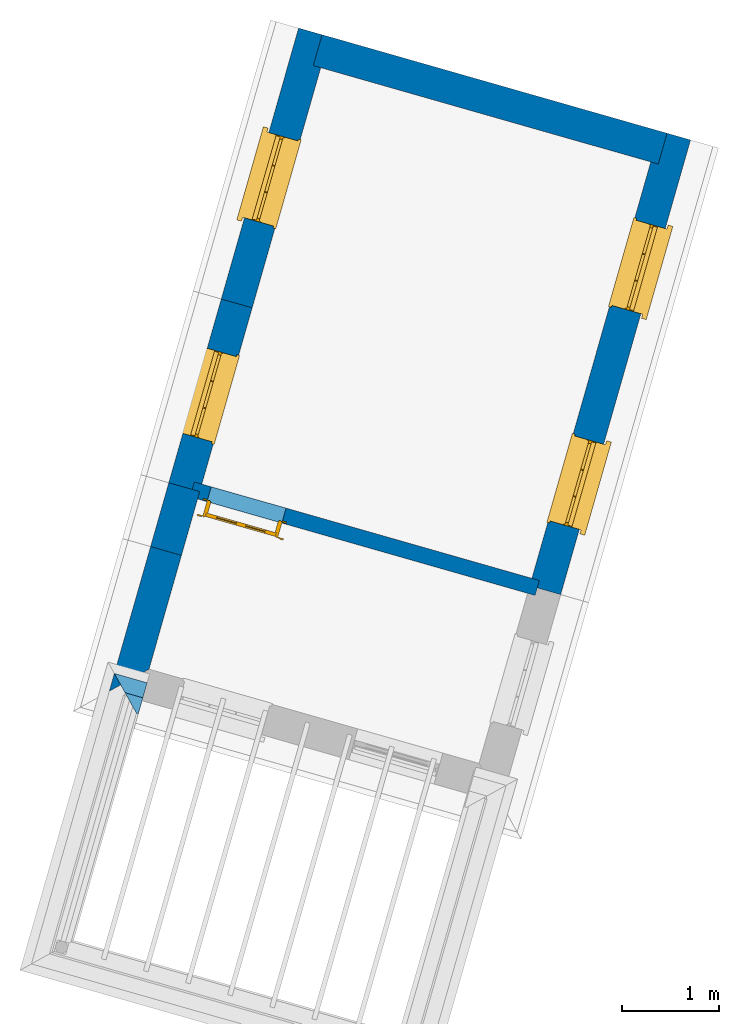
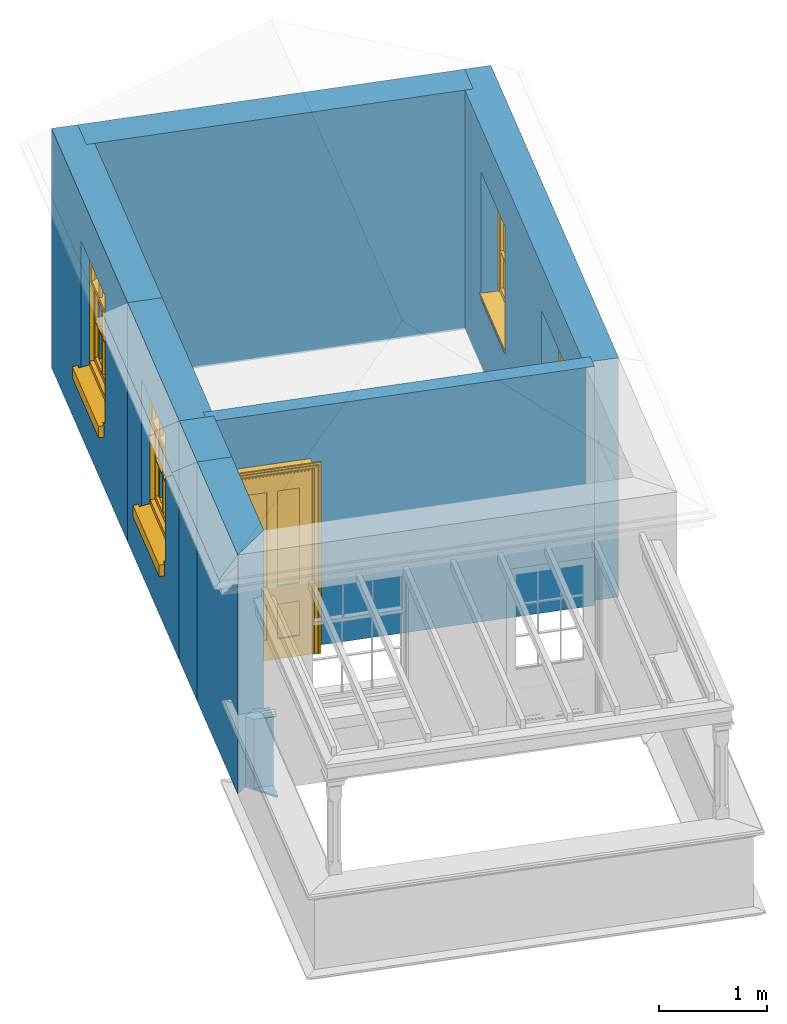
# One storey, part 3 of 4: 8 walls, 4 windows, 1 door, 5 openings.
"""IFC4 building model written with IfcOpenShell, lengths in metres."""

from ifc_helpers import new_model, si_unit, frame, origin, origin_with_axes, place, context, subcontext, project, spatial, polyline, outline, extrude, clip, halfspace, faceted_brep, source, transform, mapped, material, layer, layer_set, layer_usage, material_profile, profile_set, profile_usage, type_object, type_shapes, element, fill, save


model = new_model("IFC4")

# Units and contexts
model_context = context("Model", 3, world=origin_with_axes())
body_context = subcontext(model_context, "Body", "Model", "MODEL_VIEW")
ifc_project = project(units=[si_unit("PLANEANGLEUNIT", "RADIAN"), si_unit("MASSUNIT", "GRAM", prefix="KILO"), si_unit("FORCEUNIT", "NEWTON", prefix="KILO"), si_unit("LENGTHUNIT", "METRE"), si_unit("AREAUNIT", "SQUARE_METRE"), si_unit("VOLUMEUNIT", "CUBIC_METRE")], contexts=[model_context, model_context])

# Sites, building, storey
site_1_placement = place(None, origin_with_axes())
site_1 = spatial("IfcSite", under=ifc_project, at=site_1_placement, Name="Tamar")
site_2_placement = place(site_1_placement, origin_with_axes())
site_2 = spatial("IfcSite", under=site_1, at=site_2_placement, Name="Site plot-20", CompositionType="ELEMENT")
building_placement = place(None, origin_with_axes())
building = spatial("IfcBuilding", under=site_2, at=building_placement, Name="Building plot-20", CompositionType="ELEMENT")
storey_placement = place(None, frame((0.0, 0.0, 31.85), z_axis=(0.0, 0.0, 1.0), x_axis=(1.0, 0.0, 0.0)))
storey = spatial("IfcBuildingStorey", under=building, at=storey_placement, Name="plot-20 2", CompositionType="ELEMENT", Elevation=31.85)

# Wall, opening, window
ifc_material_1 = material(Name="Masonry")
ifc_layer_1 = layer(ifc_material_1, 0.33, ventilated=False)
ifc_layer_set_1 = layer_set([ifc_layer_1], Name="exterior_0.08_0.25")
ifc_layer_usage_1 = layer_usage(ifc_layer_set_1, "AXIS2", "POSITIVE", -0.25)
wall_type_1 = type_object("IfcWallType", Name="exterior_0.08_0.25", PredefinedType="SOLIDWALL", material=ifc_layer_set_1)
wall_1_placement = place(storey_placement, frame((278.852686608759, 293.884328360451, 0.0), z_axis=(0.0, 0.0, 1.0), x_axis=(-0.274568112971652, -0.961567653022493, 0.0)))
wall_1 = element("IfcWall", 1, at=wall_1_placement, inside=storey, type_object=wall_type_1, material=ifc_layer_usage_1, Name="exterior", context=body_context, shape_type="SweptSolid", body=[
    extrude(outline(polyline([(-0.249999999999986, 0.0799999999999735), (-0.249999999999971, -0.250000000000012), (2.64537764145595, -0.249999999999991), (2.64537764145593, 0.0799999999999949), (-0.249999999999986, 0.0799999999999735)])), origin_with_axes(), (0.0, 0.0, 1.0), 2.7),
])
opening_1_placement = place(wall_1_placement, frame((0.867688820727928, 0.0, 0.75)))
opening_1 = element("IfcOpeningElement", 2, at=opening_1_placement, cuts=wall_1, Name="My Opening", ObjectType="Opening", context=body_context, shape_type="SweptSolid", body=[
    extrude(outline(polyline([(0.0, -0.27000000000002), (0.910000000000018, -0.269999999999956), (0.91000000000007, 1.10000000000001), (5.10702591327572e-14, 1.09999999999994), (0.0, -0.27000000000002)])), origin_with_axes(), (0.0, 0.0, 1.0), 1.445),
])
window_type = type_object("IfcWindowType", Name="sash_shorter", PartitioningType="DOUBLE_PANEL_HORIZONTAL", PredefinedType="NOTDEFINED")
shared_shape_1 = source(origin(), body_context, "Body", "Brep", [
    faceted_brep([(0.876875, 0.145, 0.999097), (0.876875, 0.145, 1.411875), (0.9, 0.145, 1.435), (0.033125, 0.145, 1.411875), (0.033125, 0.145, 0.999097), (0.01, 0.145, 1.435), (0.033125, 0.115, 1.411875), (0.01, 0.115, 1.435), (0.033125, 0.115, 0.999097), (0.876875, 0.115, 1.411875), (0.876875, 0.115, 0.999097), (0.9, 0.115, 1.435), (0.033125, 0.145, 0.960972), (0.01, 0.145, 0.960972), (0.033125, 0.145, 0.548195), (0.876875, 0.145, 0.960972), (0.876875, 0.145, 0.548195), (0.9, 0.145, 0.960972), (0.876875, 0.145, 0.538195), (0.876875, 0.145, 0.125417), (0.9, 0.145, 0.077167), (0.033125, 0.145, 0.125417), (0.033125, 0.145, 0.538195), (0.01, 0.145, 0.077167), (0.9, 0.115, 0.960972), (0.01, 0.115, 0.960972), (-0.0425, 0.0, 0.01), (-0.0425, -0.05, 0.001667), (0.0, 0.0, 0.01), (0.9525, 0.0, 0.01), (0.91, 0.0, 0.01), (0.9525, -0.05, 0.001667), (-0.02, 0.33, 0.077167), (0.0, 0.33, 0.077167), (-0.02, 0.36, 0.077167), (0.0, 0.19, 0.077167), (0.01, 0.19, 0.077167), (0.91, 0.19, 0.077167), (0.91, 0.33, 0.077167), (0.9, 0.19, 0.077167), (0.93, 0.33, 0.077167), (0.93, 0.36, 0.077167), (0.01, 0.145, 0.999097), (0.01, 0.175, 0.999097), (0.9, 0.145, 0.999097), (0.9, 0.175, 0.999097), (0.876875, 0.175, 0.125417), (0.876875, 0.175, 0.538195), (0.9, 0.175, 0.077167), (0.876875, 0.175, 0.548195), (0.876875, 0.175, 0.960972), (0.033125, 0.175, 0.125417), (0.01, 0.175, 0.077167), (0.033125, 0.175, 0.538195), (0.033125, 0.175, 0.960972), (0.033125, 0.175, 0.548195), (-0.02, 0.33, 0.052167), (-0.02, 0.36, 0.052167), (0.93, 0.36, 0.052167), (0.93, 0.33, 0.052167), (0.91, 0.33, 0.052167), (0.0, 0.33, 0.052167), (0.91, 0.1, 0.026667), (0.0, 0.1, 0.026667), (-0.0425, -0.05, -0.123333), (0.9525, -0.05, -0.123333), (-0.0425, 0.0, -0.123333), (0.9525, 0.0, -0.123333), (0.01, 0.19, 1.435), (0.9, 0.19, 1.435), (0.0, 0.19, 1.445), (0.91, 0.19, 1.445), (0.01, 0.1, 0.077167), (0.9, 0.1, 0.077167), (0.592292, 0.145, 0.125417), (0.592292, 0.175, 0.125417), (0.317708, 0.175, 0.125417), (0.317708, 0.145, 0.125417), (0.592292, 0.145, 0.548195), (0.317708, 0.145, 0.548195), (0.317708, 0.145, 0.538195), (0.592292, 0.145, 0.538195), (0.592292, 0.175, 0.548195), (0.317708, 0.175, 0.548195), (0.602292, 0.175, 0.548195), (0.602292, 0.145, 0.548195), (0.317708, 0.175, 0.538195), (0.307708, 0.175, 0.125417), (0.307708, 0.175, 0.538195), (0.602292, 0.175, 0.538195), (0.602292, 0.175, 0.125417), (0.592292, 0.175, 0.538195), (0.307708, 0.175, 0.548195), (0.317708, 0.175, 0.960972), (0.307708, 0.175, 0.960972), (0.602292, 0.175, 0.960972), (0.592292, 0.175, 0.960972), (0.307708, 0.145, 0.538195), (0.307708, 0.145, 0.125417), (0.307708, 0.145, 0.548195), (0.307708, 0.145, 0.960972), (0.592292, 0.145, 0.960972), (0.317708, 0.145, 0.960972), (0.602292, 0.145, 0.960972), (0.602292, 0.145, 0.538195), (0.602292, 0.145, 0.125417), (0.317708, 0.115, 1.411875), (0.307708, 0.115, 1.411875), (0.307708, 0.115, 0.999097), (0.317708, 0.115, 0.999097), (0.602292, 0.115, 1.411875), (0.592292, 0.115, 1.411875), (0.592292, 0.115, 0.999097), (0.602292, 0.115, 0.999097), (0.317708, 0.145, 0.999097), (0.307708, 0.145, 0.999097), (0.307708, 0.145, 1.411875), (0.317708, 0.145, 1.411875), (0.602292, 0.145, 0.999097), (0.592292, 0.145, 0.999097), (0.592292, 0.145, 1.411875), (0.602292, 0.145, 1.411875), (0.91, 0.1, 1.445), (0.9, 0.1, 1.435), (0.01, 0.1, 1.435), (0.0, 0.1, 1.445), (0.91, 0.0, 0.0), (0.0, 0.0, 0.0), (0.91, 0.33, 0.0), (0.0, 0.33, 0.0)], [[[0, 1, 2]], [[3, 4, 5]], [[6, 7, 8]], [[9, 10, 11]], [[12, 13, 14]], [[15, 16, 17]], [[18, 19, 20]], [[21, 22, 23]], [[24, 15, 17]], [[13, 12, 25]], [[26, 27, 28]], [[29, 30, 31]], [[32, 33, 34]], [[35, 36, 33]], [[37, 38, 39]], [[40, 41, 38]], [[42, 4, 43]], [[44, 45, 0]], [[46, 47, 48]], [[49, 50, 45]], [[51, 52, 53]], [[54, 55, 43]], [[38, 33, 36, 39]], [[41, 34, 33, 38]], [[56, 32, 34, 57]], [[57, 34, 41, 58]], [[58, 41, 40, 59]], [[57, 58, 60, 61]], [[52, 48, 39, 36]], [[62, 63, 28, 30]], [[27, 31, 30, 28]], [[27, 64, 65, 31]], [[66, 67, 65, 64]], [[2, 5, 68, 69]], [[68, 70, 71, 69]], [[20, 23, 72, 73]], [[73, 72, 63, 62]], [[74, 75, 76, 77]], [[78, 79, 80, 81]], [[78, 82, 83, 79]], [[16, 49, 84, 85]], [[86, 76, 87, 88]], [[89, 90, 75, 91]], [[92, 88, 53, 55]], [[82, 91, 86, 83]], [[93, 83, 92, 94]], [[95, 84, 82, 96]], [[89, 84, 49, 47]], [[97, 88, 87, 98]], [[22, 53, 88, 97]], [[81, 91, 75, 74]], [[80, 86, 91, 81]], [[77, 76, 86, 80]], [[99, 92, 55, 14]], [[100, 94, 92, 99]], [[101, 96, 82, 78]], [[79, 83, 93, 102]], [[85, 84, 95, 103]], [[104, 89, 47, 18]], [[105, 90, 89, 104]], [[104, 18, 16, 85]], [[80, 97, 98, 77]], [[104, 81, 74, 105]], [[103, 101, 78, 85]], [[99, 14, 22, 97]], [[102, 100, 99, 79]], [[106, 107, 108, 109]], [[110, 111, 112, 113]], [[114, 115, 116, 117]], [[118, 119, 120, 121]], [[107, 116, 115, 108]], [[111, 120, 119, 112]], [[109, 114, 117, 106]], [[113, 118, 121, 110]], [[85, 78, 81, 104]], [[84, 89, 91, 82]], [[83, 86, 88, 92]], [[79, 99, 97, 80]], [[109, 112, 119, 114]], [[102, 93, 96, 101]], [[106, 117, 120, 111]], [[98, 87, 51, 21]], [[6, 3, 116, 107]], [[110, 121, 1, 9]], [[19, 46, 90, 105]], [[26, 66, 64, 27]], [[29, 31, 65, 67]], [[25, 24, 112, 109]], [[11, 7, 106, 111]], [[75, 48, 52, 76]], [[43, 45, 96, 93]], [[45, 43, 114, 119]], [[5, 2, 120, 117]], [[24, 25, 102, 101]], [[42, 5, 4]], [[2, 44, 0]], [[49, 45, 48, 47]], [[52, 43, 55, 53]], [[14, 13, 23, 22]], [[20, 17, 16, 18]], [[24, 11, 10]], [[25, 8, 7]], [[8, 4, 3, 6]], [[9, 1, 0, 10]], [[15, 50, 49, 16]], [[18, 47, 46, 19]], [[21, 51, 53, 22]], [[14, 55, 54, 12]], [[44, 2, 69, 45]], [[68, 5, 42, 43]], [[36, 35, 70, 68]], [[39, 69, 71, 37]], [[62, 122, 123, 73]], [[63, 72, 124, 125]], [[8, 108, 115, 4]], [[113, 10, 0, 118]], [[94, 100, 12, 54]], [[17, 20, 73, 24]], [[72, 23, 13, 25]], [[52, 36, 68, 43]], [[69, 39, 48, 45]], [[11, 24, 73, 123]], [[7, 124, 72, 25]], [[23, 77, 98]], [[98, 21, 23]], [[105, 74, 20]], [[20, 19, 105]], [[20, 74, 77, 23]], [[113, 112, 24]], [[24, 10, 113]], [[25, 109, 108]], [[108, 8, 25]], [[110, 9, 11]], [[11, 111, 110]], [[7, 6, 107]], [[107, 106, 7]], [[5, 117, 116]], [[116, 3, 5]], [[121, 120, 2]], [[2, 1, 121]], [[11, 123, 124, 7]], [[122, 125, 124, 123]], [[43, 93, 94]], [[94, 54, 43]], [[96, 45, 95]], [[50, 95, 45]], [[15, 103, 95, 50]], [[48, 75, 90]], [[90, 46, 48]], [[87, 76, 52]], [[52, 51, 87]], [[103, 15, 24]], [[24, 101, 103]], [[100, 102, 25]], [[25, 12, 100]], [[115, 114, 43]], [[43, 4, 115]], [[118, 0, 45]], [[45, 119, 118]], [[71, 70, 125, 122]], [[70, 35, 63, 125]], [[122, 62, 37, 71]], [[126, 67, 66, 127]], [[60, 58, 59]], [[38, 60, 59, 40]], [[61, 56, 57]], [[32, 56, 61, 33]], [[61, 60, 128, 129]], [[62, 60, 38, 37]], [[126, 128, 60, 62]], [[33, 61, 63, 35]], [[61, 129, 127, 63]], [[128, 126, 127, 129]], [[28, 127, 66, 26]], [[63, 127, 28]], [[29, 67, 126, 30]], [[30, 126, 62]]]),
])
type_shapes(window_type, [shared_shape_1])
window_1_placement = place(storey_placement, frame((278.354823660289, 293.124120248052, 0.75), z_axis=(0.0, 0.0, 1.0), x_axis=(-0.249856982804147, -0.875026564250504, 0.0)))
window_1 = element("IfcWindow", 3, at=window_1_placement, inside=storey, type_object=window_type, Name="bedroom outside window", OverallHeight=1.445, OverallWidth=0.91, context=body_context, shape_type="MappedRepresentation", body=[
    mapped(shared_shape_1, transform((0.0, 0.0, 0.0), scale=1.0)),
])
fill(opening_1, window_1)

wall_2_placement = place(storey_placement, frame((278.126350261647, 291.340618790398, 0.0), z_axis=(0.0, 0.0, 1.0), x_axis=(-0.274568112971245, -0.961567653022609, 0.0)))
wall_2 = element("IfcWall", 4, at=wall_2_placement, inside=storey, type_object=wall_type_1, material=ifc_layer_usage_1, Name="exterior", context=body_context, shape_type="SweptSolid", body=[
    extrude(outline(polyline([(4.01309688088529e-14, 0.079999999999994), (-8.54718648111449e-14, -0.249999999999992), (1.96337706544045, -0.250000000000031), (1.96337706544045, 0.0799999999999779), (4.01309688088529e-14, 0.079999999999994)])), origin_with_axes(), (0.0, 0.0, 1.0), 2.7),
])
opening_2_placement = place(wall_2_placement, frame((0.526688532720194, 0.0, 0.75)))
opening_2 = element("IfcOpeningElement", 5, at=opening_2_placement, cuts=wall_2, Name="My Opening", ObjectType="Opening", context=body_context, shape_type="SweptSolid", body=[
    extrude(outline(polyline([(0.0, -0.270000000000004), (0.91000000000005, -0.27000000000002), (0.910000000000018, 1.09999999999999), (-3.2085445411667e-14, 1.10000000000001), (0.0, -0.270000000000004)])), origin_with_axes(), (0.0, 0.0, 1.0), 1.445),
])
window_2_placement = place(storey_placement, frame((277.722115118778, 290.908305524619, 0.75), z_axis=(0.0, 0.0, 1.0), x_axis=(-0.249856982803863, -0.875026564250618, 0.0)))
window_2 = element("IfcWindow", 6, at=window_2_placement, inside=storey, type_object=window_type, Name="bedroom outside window", OverallHeight=1.445, OverallWidth=0.91, context=body_context, shape_type="MappedRepresentation", body=[
    mapped(shared_shape_1, transform((0.0, 0.0, 0.0), scale=1.0)),
])
fill(opening_2, window_2)

# Walls
wall_3_placement = place(storey_placement, frame((277.587269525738, 289.452698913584, 0.0), z_axis=(0.0, 0.0, 1.0), x_axis=(-0.274568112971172, -0.96156765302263, 0.0)))
element("IfcWall", 7, at=wall_3_placement, inside=storey, type_object=wall_type_1, material=ifc_layer_usage_1, Name="exterior", context=body_context, shape_type="SweptSolid", body=[
    extrude(outline(polyline([(-8.47015431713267e-15, 0.0799999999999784), (-3.40685387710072e-14, -0.250000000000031), (0.682000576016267, -0.250000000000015), (0.682000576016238, 0.0799999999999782), (-8.47015431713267e-15, 0.0799999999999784)])), origin_with_axes(), (0.0, 0.0, 1.0), 2.7),
])
wall_4_placement = place(storey_placement, frame((277.400013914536, 288.796909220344, 0.0), z_axis=(0.0, 0.0, 1.0), x_axis=(-0.274568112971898, -0.961567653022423, 0.0)))
element("IfcWall", 8, at=wall_4_placement, inside=storey, type_object=wall_type_1, material=ifc_layer_usage_1, Name="exterior", context=body_context, shape_type="SweptSolid", body=[
    extrude(outline(polyline([(-6.88662868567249e-14, 0.0799999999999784), (2.09292348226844e-13, -0.250000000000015), (1.54618089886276, -0.249999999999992), (1.21618089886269, 0.0800000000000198), (-6.88662868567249e-14, 0.0799999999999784)])), origin_with_axes(), (0.0, 0.0, 1.0), 2.7),
])

# Wall, openings, windows
wall_5_placement = place(storey_placement, frame((281.132347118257, 288.440429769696, 0.0), z_axis=(0.0, 0.0, 1.0), x_axis=(0.274568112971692, 0.961567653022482, 0.0)))
wall_5 = element("IfcWall", 9, at=wall_5_placement, inside=storey, type_object=wall_type_1, material=ifc_layer_usage_1, Name="exterior", context=body_context, shape_type="SweptSolid", body=[
    extrude(outline(polyline([(-5.16870854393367e-14, 0.0799999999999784), (1.55668576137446e-13, -0.250000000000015), (4.85875470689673, -0.250000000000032), (4.85875470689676, 0.0799999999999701), (-5.16870854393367e-14, 0.0799999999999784)])), origin_with_axes(), (0.0, 0.0, 1.0), 2.7),
])
opening_3_placement = place(wall_5_placement, frame((0.697188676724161, 0.0, 0.75)))
opening_3 = element("IfcOpeningElement", 10, at=opening_3_placement, cuts=wall_5, Name="My Opening", ObjectType="Opening", context=body_context, shape_type="SweptSolid", body=[
    extrude(outline(polyline([(0.0, -0.269999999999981), (0.909999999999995, -0.270000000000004), (0.90999999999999, 1.09999999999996), (-4.88498130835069e-15, 1.09999999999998), (0.0, -0.269999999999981)])), origin_with_axes(), (0.0, 0.0, 1.0), 1.445),
])
opening_4_placement = place(wall_5_placement, frame((3.00156603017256, 0.0, 0.75)))
opening_4 = element("IfcOpeningElement", 11, at=opening_4_placement, cuts=wall_5, Name="My Opening", ObjectType="Opening", context=body_context, shape_type="SweptSolid", body=[
    extrude(outline(polyline([(0.0, -0.269999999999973), (0.909999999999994, -0.269999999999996), (0.90999999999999, 1.09999999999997), (-4.88498130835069e-15, 1.09999999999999), (0.0, -0.269999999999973)])), origin_with_axes(), (0.0, 0.0, 1.0), 1.445),
])
window_3_placement = place(storey_placement, frame((281.583396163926, 289.036690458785, 0.75), z_axis=(0.0, 0.0, 1.0), x_axis=(0.24985698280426, 0.875026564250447, 0.0)))
window_3 = element("IfcWindow", 12, at=window_3_placement, inside=storey, type_object=window_type, Name="bedroom outside window", OverallHeight=1.445, OverallWidth=0.91, context=body_context, shape_type="MappedRepresentation", body=[
    mapped(shared_shape_1, transform((0.0, 0.0, 0.0), scale=1.0)),
])
fill(opening_3, window_3)
window_4_placement = place(storey_placement, frame((282.216104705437, 291.252505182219, 0.75), z_axis=(0.0, 0.0, 1.0), x_axis=(0.24985698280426, 0.875026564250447, 0.0)))
window_4 = element("IfcWindow", 13, at=window_4_placement, inside=storey, type_object=window_type, Name="bedroom outside window", OverallHeight=1.445, OverallWidth=0.91, context=body_context, shape_type="MappedRepresentation", body=[
    mapped(shared_shape_1, transform((0.0, 0.0, 0.0), scale=1.0)),
])
fill(opening_4, window_4)

# Wall
ifc_material_2 = material(Name="Masonry")
ifc_layer_2 = layer(ifc_material_2, 0.33, ventilated=False)
ifc_layer_set_2 = layer_set([ifc_layer_2], Name="party_0.08_0.25")
ifc_layer_usage_2 = layer_usage(ifc_layer_set_2, "AXIS2", "POSITIVE", -0.25)
wall_type_2 = type_object("IfcWallType", Name="party_0.08_0.25", PredefinedType="SOLIDWALL", material=ifc_layer_set_2)
wall_6_placement = place(storey_placement, frame((282.397764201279, 292.872059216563, 0.0), z_axis=(0.0, 0.0, 1.0), x_axis=(-0.961567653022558, 0.274568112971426, 0.0)))
element("IfcWall", 14, at=wall_6_placement, inside=storey, type_object=wall_type_2, material=ifc_layer_usage_2, Name="party", context=body_context, shape_type="SweptSolid", body=[
    extrude(outline(polyline([(2.50515300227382e-14, 0.079999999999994), (1.63910976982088e-14, -0.249999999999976), (3.6867687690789, -0.249999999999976), (3.68676876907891, 0.0799999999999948), (2.50515300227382e-14, 0.079999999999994)])), origin_with_axes(), (0.0, 0.0, 1.0), 2.7),
])

# Wall, opening, door
ifc_material_3 = material(Name="Masonry")
ifc_layer_3 = layer(ifc_material_3, 0.16, ventilated=False)
ifc_layer_set_3 = layer_set([ifc_layer_3], Name="interior_0.08_0.08")
ifc_layer_usage_3 = layer_usage(ifc_layer_set_3, "AXIS2", "POSITIVE", -0.08)
wall_type_3 = type_object("IfcWallType", Name="interior_0.08_0.08", PredefinedType="SOLIDWALL", material=ifc_layer_set_3)
wall_7_placement = place(storey_placement, frame((281.132347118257, 288.440429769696, 0.0), z_axis=(0.0, 0.0, 1.0), x_axis=(-0.961567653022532, 0.274568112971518, 0.0)))
wall_7 = element("IfcWall", 15, at=wall_7_placement, inside=storey, type_object=wall_type_3, material=ifc_layer_usage_3, Name="interior", context=body_context, shape_type="SweptSolid", body=[
    extrude(outline(polyline([(1.74487227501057e-14, 0.079999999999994), (-1.74566891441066e-14, -0.079999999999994), (3.68676876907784, -0.0799999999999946), (3.68676876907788, 0.0799999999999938), (1.74487227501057e-14, 0.079999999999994)])), origin_with_axes(), (0.0, 0.0, 1.0), 2.7),
])
opening_5_placement = place(wall_7_placement, frame((2.70676876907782, 0.0, 0.0199999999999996)))
opening_5 = element("IfcOpeningElement", 16, at=opening_5_placement, cuts=wall_7, Name="My Opening", ObjectType="Opening", context=body_context, shape_type="SweptSolid", body=[
    extrude(outline(polyline([(0.0, -0.0999999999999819), (0.800000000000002, -0.099999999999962), (0.800000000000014, 1.09999999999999), (1.15463194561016e-14, 1.09999999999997), (0.0, -0.0999999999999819)])), origin_with_axes(), (0.0, 0.0, 1.0), 2.1),
])
door_type = type_object("IfcDoorType", Name="door_inside", OperationType="SINGLE_SWING_LEFT", PredefinedType="NOTDEFINED")
shared_shape_2 = source(origin(), body_context, "Body", "Brep", [
    faceted_brep([(0.773, 0.33, 1.895), (0.66, 0.33, 1.895), (0.66, 0.33, 2.073), (0.773, 0.33, 2.073), (0.773, 0.33, 0.82), (0.66, 0.33, 0.82), (0.45, 0.33, 1.895), (0.45, 0.33, 2.073), (0.773, 0.33, 0.62), (0.66, 0.33, 0.62), (0.66, 0.315, 0.82), (0.66, 0.315, 1.895), (0.45, 0.315, 1.895), (0.35, 0.33, 1.895), (0.35, 0.33, 2.073), (0.773, 0.33, 0.225), (0.66, 0.33, 0.225), (0.45, 0.33, 0.62), (0.45, 0.33, 0.82), (0.45, 0.315, 0.82), (0.35, 0.33, 0.82), (0.14, 0.33, 2.073), (0.14, 0.33, 1.895), (0.773, 0.33, 0.0), (0.66, 0.33, 0.0), (0.66, 0.315, 0.225), (0.66, 0.315, 0.62), (0.45, 0.315, 0.62), (0.35, 0.33, 0.62), (0.35, 0.315, 0.82), (0.35, 0.315, 1.895), (0.14, 0.315, 1.895), (0.027, 0.33, 2.073), (0.027, 0.33, 1.895), (0.773, 0.292, 0.0), (0.66, 0.292, 0.0), (0.45, 0.33, 0.0), (0.45, 0.33, 0.225), (0.45, 0.315, 0.225), (0.35, 0.33, 0.225), (0.14, 0.33, 0.82), (0.14, 0.33, 0.62), (0.14, 0.315, 0.82), (0.027, 0.33, 0.82), (0.773, 0.292, 0.225), (0.66, 0.292, 0.225), (0.45, 0.292, 0.0), (0.35, 0.33, 0.0), (0.35, 0.315, 0.225), (0.35, 0.315, 0.62), (0.14, 0.315, 0.62), (0.027, 0.33, 0.62), (0.773, 0.292, 0.62), (0.66, 0.292, 0.62), (0.45, 0.292, 0.225), (0.35, 0.292, 0.0), (0.14, 0.33, 0.225), (0.14, 0.33, 0.0), (0.14, 0.315, 0.225), (0.027, 0.33, 0.225), (0.773, 0.292, 0.82), (0.66, 0.292, 0.82), (0.66, 0.307, 0.62), (0.66, 0.307, 0.225), (0.45, 0.307, 0.225), (0.35, 0.292, 0.225), (0.14, 0.292, 0.0), (0.027, 0.33, 0.0), (0.773, 0.292, 1.895), (0.66, 0.292, 1.895), (0.45, 0.292, 0.62), (0.45, 0.292, 0.82), (0.45, 0.307, 0.62), (0.35, 0.292, 0.62), (0.14, 0.292, 0.225), (0.027, 0.292, 0.0), (0.773, 0.292, 2.073), (0.66, 0.292, 2.073), (0.66, 0.307, 1.895), (0.66, 0.307, 0.82), (0.45, 0.307, 0.82), (0.35, 0.292, 0.82), (0.35, 0.307, 0.62), (0.35, 0.307, 0.225), (0.14, 0.307, 0.225), (0.027, 0.292, 0.225), (0.45, 0.292, 1.895), (0.45, 0.292, 2.073), (0.45, 0.307, 1.895), (0.35, 0.292, 1.895), (0.14, 0.292, 0.82), (0.14, 0.292, 0.62), (0.14, 0.307, 0.62), (0.027, 0.292, 0.62), (0.35, 0.292, 2.073), (0.35, 0.307, 1.895), (0.35, 0.307, 0.82), (0.14, 0.307, 0.82), (0.027, 0.292, 0.82), (0.14, 0.292, 2.073), (0.14, 0.292, 1.895), (0.14, 0.307, 1.895), (0.027, 0.292, 1.895), (0.027, 0.292, 2.073), (0.02, 0.335, 0.0), (0.005, 0.34, 0.0), (0.005, 0.34, 2.095), (0.02, 0.335, 2.08), (0.02, 0.33, 0.0), (0.0, 0.335, 0.0), (0.0, 0.335, 2.1), (0.795, 0.34, 2.095), (0.78, 0.335, 2.08), (0.02, 0.33, 2.08), (0.0, 0.33, 0.0), (-0.032, 0.345, 0.0), (-0.032, 0.345, 2.132), (0.8, 0.335, 2.1), (0.795, 0.34, 0.0), (0.78, 0.335, 0.0), (0.78, 0.33, 2.08), (0.04, 0.29, 0.0), (0.025, 0.29, 0.0), (0.025, 0.29, 2.075), (0.04, 0.29, 2.06), (-0.04, 0.34, 0.0), (-0.04, 0.34, 2.14), (0.832, 0.345, 2.132), (0.8, 0.335, 0.0), (0.78, 0.33, 0.0), (0.8, 0.33, 0.0), (0.86, 0.33, 0.0), (0.86, 0.33, 2.16), (0.8, 0.33, 2.1), (-0.06, 0.33, 2.16), (0.0, 0.33, 2.1), (-0.06, 0.33, 0.0), (-0.04, 0.345, 0.0), (-0.04, 0.345, 2.14), (0.84, 0.34, 2.14), (0.832, 0.345, 0.0), (0.84, 0.34, 0.0), (0.86, 0.345, 0.0), (0.86, 0.345, 2.16), (-0.06, 0.345, 2.16), (-0.06, 0.345, 0.0), (0.84, 0.345, 0.0), (0.84, 0.345, 2.14), (-0.025, 0.155, 0.0), (-0.025, 0.16, 0.0), (-0.025, 0.16, 2.125), (-0.025, 0.155, 2.125), (-0.017, 0.155, 0.0), (-0.017, 0.155, 2.117), (0.825, 0.16, 2.125), (0.825, 0.155, 2.125), (0.825, 0.155, 0.0), (0.845, 0.155, 0.0), (-0.045, 0.155, 2.145), (-0.045, 0.155, 0.0), (0.845, 0.155, 2.145), (0.015, 0.165, 0.0), (0.015, 0.165, 2.085), (0.817, 0.155, 2.117), (0.825, 0.16, 0.0), (0.845, 0.17, 0.0), (0.845, 0.17, 2.145), (-0.045, 0.17, 2.145), (-0.045, 0.17, 0.0), (0.02, 0.16, 0.0), (0.02, 0.16, 2.08), (0.785, 0.165, 2.085), (0.817, 0.155, 0.0), (0.8, 0.17, 0.0), (0.8, 0.17, 2.1), (0.0, 0.17, 2.1), (0.0, 0.17, 0.0), (0.035, 0.165, 0.0), (0.035, 0.165, 2.065), (0.78, 0.16, 2.08), (0.785, 0.165, 0.0), (0.775, 0.29, 2.075), (0.76, 0.29, 2.06), (0.035, 0.17, 2.065), (0.035, 0.17, 0.0), (0.765, 0.165, 2.065), (0.78, 0.16, 0.0), (0.765, 0.17, 0.0), (0.765, 0.17, 2.065), (0.765, 0.165, 0.0), (0.04, 0.17, 2.06), (0.04, 0.17, 0.0), (0.76, 0.17, 2.06), (0.76, 0.17, 0.0), (0.76, 0.29, 0.0), (0.775, 0.29, 0.0), (0.025, 0.33, 0.0), (0.025, 0.33, 2.075), (0.775, 0.33, 0.0), (0.775, 0.33, 2.075)], [[[0, 1, 2, 3]], [[1, 0, 4, 5]], [[1, 6, 7, 2]], [[8, 9, 5, 4]], [[1, 5, 10, 11]], [[6, 1, 11, 12]], [[6, 13, 14, 7]], [[15, 16, 9, 8]], [[9, 17, 18, 5]], [[5, 18, 19, 10]], [[10, 19, 12, 11]], [[18, 6, 12, 19]], [[18, 20, 13, 6]], [[21, 14, 13, 22]], [[23, 24, 16, 15]], [[9, 16, 25, 26]], [[17, 9, 26, 27]], [[17, 28, 20, 18]], [[13, 20, 29, 30]], [[22, 13, 30, 31]], [[32, 21, 22, 33]], [[34, 35, 24, 23]], [[24, 36, 37, 16]], [[16, 37, 38, 25]], [[25, 38, 27, 26]], [[37, 17, 27, 38]], [[37, 39, 28, 17]], [[40, 20, 28, 41]], [[20, 40, 42, 29]], [[31, 30, 29, 42]], [[40, 22, 31, 42]], [[33, 22, 40, 43]], [[35, 34, 44, 45]], [[35, 46, 36, 24]], [[36, 47, 39, 37]], [[28, 39, 48, 49]], [[41, 28, 49, 50]], [[43, 40, 41, 51]], [[45, 44, 52, 53]], [[46, 35, 45, 54]], [[46, 55, 47, 36]], [[56, 39, 47, 57]], [[39, 56, 58, 48]], [[50, 49, 48, 58]], [[56, 41, 50, 58]], [[51, 41, 56, 59]], [[53, 52, 60, 61]], [[45, 53, 62, 63]], [[54, 45, 63, 64]], [[55, 46, 54, 65]], [[55, 66, 57, 47]], [[59, 56, 57, 67]], [[61, 60, 68, 69]], [[70, 53, 61, 71]], [[53, 70, 72, 62]], [[72, 64, 63, 62]], [[70, 54, 64, 72]], [[65, 54, 70, 73]], [[65, 74, 66, 55]], [[67, 57, 66, 75]], [[69, 68, 76, 77]], [[61, 69, 78, 79]], [[71, 61, 79, 80]], [[73, 70, 71, 81]], [[65, 73, 82, 83]], [[74, 65, 83, 84]], [[74, 85, 75, 66]], [[86, 69, 77, 87]], [[69, 86, 88, 78]], [[88, 80, 79, 78]], [[86, 71, 80, 88]], [[81, 71, 86, 89]], [[73, 81, 90, 91]], [[73, 91, 92, 82]], [[83, 82, 92, 84]], [[91, 74, 84, 92]], [[91, 93, 85, 74]], [[89, 86, 87, 94]], [[81, 89, 95, 96]], [[90, 81, 96, 97]], [[90, 98, 93, 91]], [[94, 99, 100, 89]], [[89, 100, 101, 95]], [[101, 97, 96, 95]], [[100, 90, 97, 101]], [[100, 102, 98, 90]], [[99, 103, 102, 100]], [[32, 103, 99, 21]], [[102, 103, 32, 33]], [[98, 102, 33, 43]], [[21, 99, 94, 14]], [[94, 87, 7, 14]], [[7, 87, 77, 2]], [[76, 3, 2, 77]], [[43, 51, 93, 98]], [[51, 59, 85, 93]], [[67, 75, 85, 59]], [[34, 23, 15, 44]], [[44, 15, 8, 52]], [[52, 8, 4, 60]], [[0, 68, 60, 4]], [[0, 3, 76, 68]], [[104, 105, 106, 107]], [[104, 108, 109, 105]], [[105, 109, 110, 106]], [[107, 106, 111, 112]], [[107, 113, 108, 104]], [[114, 109, 108]], [[109, 115, 116, 110]], [[106, 110, 117, 111]], [[112, 111, 118, 119]], [[113, 107, 112, 120]], [[121, 122, 123, 124]], [[115, 109, 114, 125]], [[115, 125, 126, 116]], [[110, 116, 127, 117]], [[111, 117, 128, 118]], [[118, 128, 129, 119]], [[120, 112, 119, 129]], [[130, 129, 128]], [[130, 131, 132, 133]], [[133, 132, 134, 135]], [[135, 134, 136, 114]], [[136, 125, 114]], [[125, 137, 138, 126]], [[116, 126, 139, 127]], [[117, 127, 140, 128]], [[141, 130, 128, 140]], [[131, 130, 141]], [[131, 142, 143, 132]], [[132, 143, 144, 134]], [[134, 144, 145, 136]], [[137, 125, 136, 145]], [[143, 142, 146]], [[143, 146, 147]], [[137, 145, 144]], [[143, 147, 138]], [[138, 137, 144]], [[143, 138, 144]], [[126, 138, 147, 139]], [[127, 139, 141, 140]], [[142, 131, 141, 146]], [[139, 147, 146, 141]], [[148, 149, 150, 151]], [[149, 152, 153, 150]], [[151, 150, 154, 155]], [[155, 156, 157]], [[158, 159, 148]], [[158, 148, 151]], [[155, 157, 160]], [[158, 151, 155]], [[155, 160, 158]], [[152, 161, 162, 153]], [[150, 153, 163, 154]], [[155, 154, 164, 156]], [[156, 164, 165, 157]], [[157, 165, 166, 160]], [[160, 166, 167, 158]], [[158, 167, 168, 159]], [[161, 169, 170, 162]], [[153, 162, 171, 163]], [[154, 163, 172, 164]], [[165, 164, 173]], [[165, 173, 174, 166]], [[166, 174, 175, 167]], [[167, 175, 176, 168]], [[169, 177, 178, 170]], [[162, 170, 179, 171]], [[163, 171, 180, 172]], [[172, 180, 173, 164]], [[124, 123, 181, 182]], [[183, 178, 177, 184]], [[170, 178, 185, 179]], [[171, 179, 186, 180]], [[187, 173, 180]], [[185, 188, 187, 189]], [[188, 185, 178, 183]], [[179, 185, 189, 186]], [[189, 187, 180, 186]], [[190, 183, 184, 191]], [[192, 188, 183, 190]], [[191, 184, 122, 121]], [[124, 190, 191, 121]], [[193, 187, 188, 192]], [[182, 192, 190, 124]], [[184, 176, 122]], [[194, 195, 187, 193]], [[192, 182, 194, 193]], [[161, 176, 184]], [[114, 108, 122, 176]], [[173, 187, 195]], [[152, 149, 176, 161]], [[169, 161, 184, 177]], [[196, 122, 108]], [[176, 175, 135, 114]], [[173, 195, 129, 130]], [[176, 149, 168]], [[123, 122, 196, 197]], [[196, 108, 113, 197]], [[175, 174, 133, 135]], [[198, 129, 195]], [[133, 174, 173, 130]], [[159, 168, 149, 148]], [[181, 123, 197, 199]], [[197, 113, 120, 199]], [[199, 120, 129, 198]], [[195, 181, 199, 198]], [[195, 194, 182, 181]]]),
])
type_shapes(door_type, [shared_shape_2])
door_placement = place(storey_placement, frame((278.557062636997, 289.279778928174, 0.0199999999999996), z_axis=(0.0, 0.0, 1.0), x_axis=(-0.769254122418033, 0.219654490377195, 0.0)))
door = element("IfcDoor", 17, at=door_placement, inside=storey, type_object=door_type, Name="bedroom inside door", OverallHeight=2.1, OverallWidth=0.8, context=body_context, shape_type="MappedRepresentation", body=[
    mapped(shared_shape_2, transform((0.0, 0.0, 0.0), scale=1.0)),
])
fill(opening_5, door)

# Wall
ifc_material_profile = material_profile(None, outline(polyline([(0.25, 0.0), (0.25, 0.795), (0.09, 0.795), (0.09, 0.02), (-0.08, 0.02), (-0.08, 0.0), (0.25, 0.0)])))
ifc_profile_set = profile_set([ifc_material_profile])
ifc_profile_usage = profile_usage(ifc_profile_set)
wall_type_4 = type_object("IfcWallType", Name="parapet_0", PredefinedType="PARAPET", material=ifc_profile_set)
wall_8_placement = place(storey_placement, frame((275.997440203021, 287.527025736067, 0.0), z_axis=(0.961567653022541, -0.274568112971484, 0.0), x_axis=(0.274568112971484, 0.961567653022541, 0.0)))
element("IfcWall", 18, at=wall_8_placement, inside=storey, type_object=wall_type_4, material=ifc_profile_usage, Name="parapet_0", context=body_context, shape_type="Clipping", body=[
    clip(clip(extrude(outline(polyline([(0.25, 0.0), (0.25, 0.795), (0.09, 0.795), (0.09, 0.02), (-0.08, 0.02), (-0.08, 0.0), (0.25, 0.0)])), origin_with_axes(), (0.0, 0.0, 1.0), 2.10000000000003), halfspace(frame((0.0, 0.0, 1.10000000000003), z_axis=(2.3919584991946e-14, 0.0, -1.0), x_axis=(0.0, 1.0, 0.0)), True)), halfspace(frame((0.0, 0.0, 1.0), z_axis=(-0.707106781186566, 0.0, -0.707106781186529), x_axis=(0.0, 1.0, 0.0)), False)),
])

save(model, "model.ifc")
